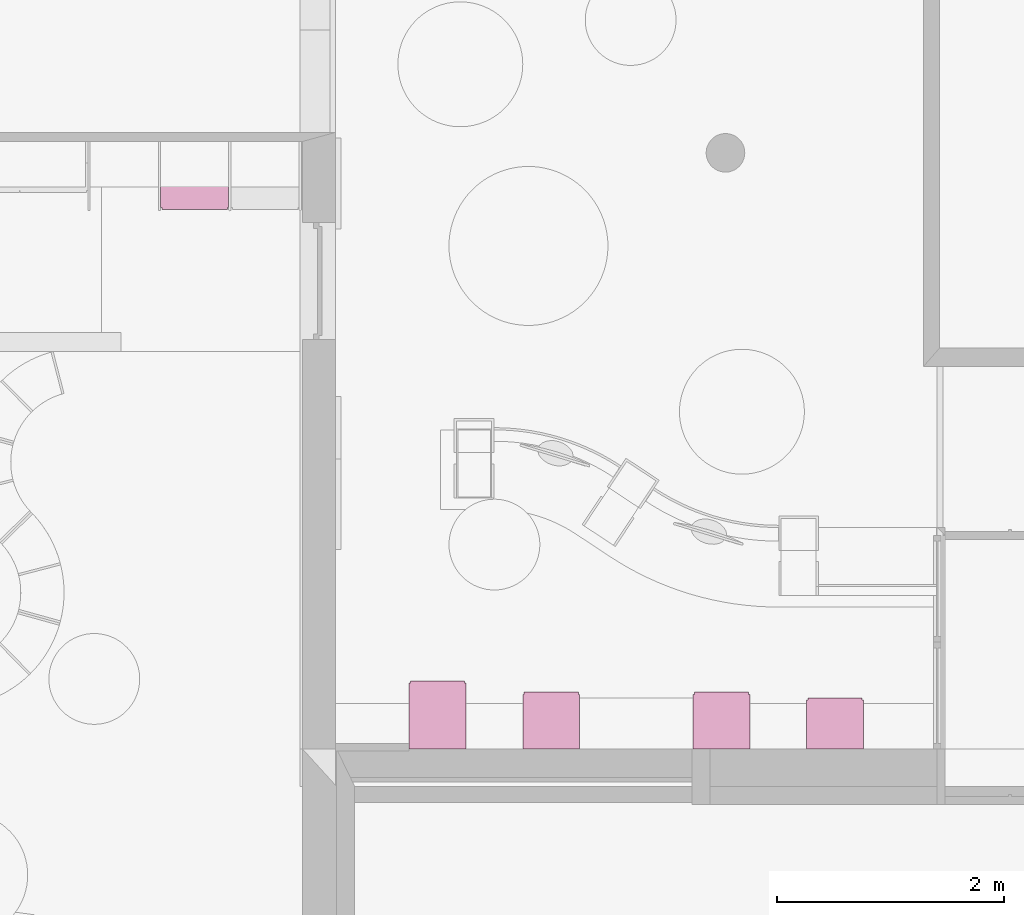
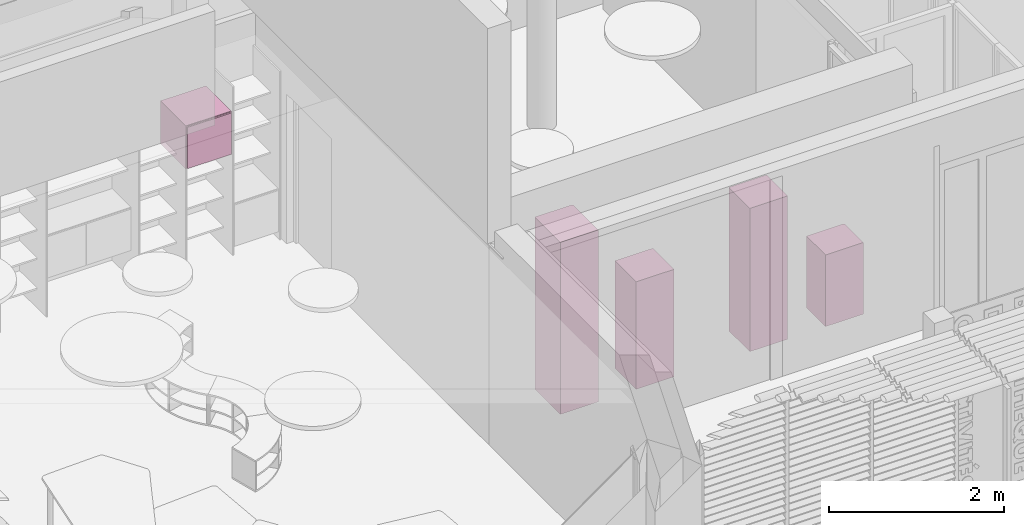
# One storey, part 50 of 64: 5 furnishings.
"""IFC2X3 building model written with IfcOpenShell, lengths in metres."""

from ifc_helpers import new_model, entity, si_unit, converted_unit, derived_unit, direction, frame, origin, place, context, subcontext, project, spatial, faceted_brep, source, transform, mapped, material, type_object, type_shapes, element, save


model = new_model("IFC2X3")

# Units and contexts
model_context = context("Model", 3, precision=1e-05, world=origin(), true_north=direction((6.123031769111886e-17, 1.0)))
body_context = subcontext(model_context, "Body", "Model", "MODEL_VIEW")
ifc_project = project(units=[si_unit("LENGTHUNIT", "METRE"), si_unit("AREAUNIT", "SQUARE_METRE"), si_unit("VOLUMEUNIT", "CUBIC_METRE"), converted_unit("PLANEANGLEUNIT", "DEGREE", entity("IfcRatioMeasure", 0.017453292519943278), si_unit("PLANEANGLEUNIT", "RADIAN"), dimensions=[0, 0, 0, 0, 0, 0, 0]), si_unit("MASSUNIT", "GRAM", prefix="KILO"), derived_unit("MASSDENSITYUNIT", [(si_unit("MASSUNIT", "GRAM", prefix="KILO"), 1), (si_unit("LENGTHUNIT", "METRE"), -3)]), derived_unit("MOMENTOFINERTIAUNIT", [(si_unit("LENGTHUNIT", "METRE"), 4)]), si_unit("TIMEUNIT", "SECOND"), si_unit("FREQUENCYUNIT", "HERTZ"), si_unit("THERMODYNAMICTEMPERATUREUNIT", "DEGREE_CELSIUS"), derived_unit("THERMALTRANSMITTANCEUNIT", [(si_unit("MASSUNIT", "GRAM", prefix="KILO"), 1), (si_unit("THERMODYNAMICTEMPERATUREUNIT", "KELVIN"), -1), (si_unit("TIMEUNIT", "SECOND"), -3)]), derived_unit("THERMALCONDUCTANCEUNIT", [(si_unit("MASSUNIT", "GRAM", prefix="KILO"), 1), (si_unit("LENGTHUNIT", "METRE"), 1), (si_unit("THERMODYNAMICTEMPERATUREUNIT", "KELVIN"), -1), (si_unit("TIMEUNIT", "SECOND"), -3)]), derived_unit("VOLUMETRICFLOWRATEUNIT", [(si_unit("LENGTHUNIT", "METRE"), 3), (si_unit("TIMEUNIT", "SECOND"), -1)]), derived_unit("MASSFLOWRATEUNIT", [(si_unit("MASSUNIT", "GRAM", prefix="KILO"), 1), (si_unit("TIMEUNIT", "SECOND"), -1)]), derived_unit("ROTATIONALFREQUENCYUNIT", [(si_unit("TIMEUNIT", "SECOND"), -1)]), si_unit("ELECTRICCURRENTUNIT", "AMPERE"), si_unit("ELECTRICVOLTAGEUNIT", "VOLT"), si_unit("POWERUNIT", "WATT"), si_unit("FORCEUNIT", "NEWTON", prefix="KILO"), si_unit("ILLUMINANCEUNIT", "LUX"), si_unit("LUMINOUSFLUXUNIT", "LUMEN"), si_unit("LUMINOUSINTENSITYUNIT", "CANDELA"), derived_unit("USERDEFINED", [(si_unit("MASSUNIT", "GRAM", prefix="KILO"), -1), (si_unit("LENGTHUNIT", "METRE"), -2), (si_unit("TIMEUNIT", "SECOND"), 3), (si_unit("LUMINOUSFLUXUNIT", "LUMEN"), 1)]), derived_unit("USERDEFINED", [(si_unit("MASSUNIT", "GRAM", prefix="KILO"), 1), (si_unit("LENGTHUNIT", "METRE"), 3), (si_unit("TIMEUNIT", "SECOND"), -3), (si_unit("ELECTRICCURRENTUNIT", "AMPERE"), -2)]), derived_unit("USERDEFINED", [(si_unit("LENGTHUNIT", "METRE"), 2), (si_unit("TIMEUNIT", "SECOND"), -2)]), derived_unit("SOUNDPOWERUNIT", [(si_unit("MASSUNIT", "GRAM", prefix="KILO"), 1), (si_unit("LENGTHUNIT", "METRE"), 2), (si_unit("TIMEUNIT", "SECOND"), -3)]), derived_unit("SOUNDPRESSUREUNIT", [(si_unit("MASSUNIT", "GRAM", prefix="KILO"), 1), (si_unit("LENGTHUNIT", "METRE"), -1), (si_unit("TIMEUNIT", "SECOND"), -2)]), derived_unit("LINEARVELOCITYUNIT", [(si_unit("LENGTHUNIT", "METRE"), 1), (si_unit("TIMEUNIT", "SECOND"), -1)]), si_unit("PRESSUREUNIT", "PASCAL"), derived_unit("USERDEFINED", [(si_unit("LENGTHUNIT", "METRE"), -2), (si_unit("MASSUNIT", "GRAM", prefix="KILO"), 1), (si_unit("TIMEUNIT", "SECOND"), -2)]), derived_unit("LINEARFORCEUNIT", [(si_unit("MASSUNIT", "GRAM", prefix="KILO"), 1), (si_unit("LENGTHUNIT", "METRE"), 1), (si_unit("TIMEUNIT", "SECOND"), -2), (si_unit("LENGTHUNIT", "METRE"), -1)]), derived_unit("PLANARFORCEUNIT", [(si_unit("MASSUNIT", "GRAM", prefix="KILO"), 1), (si_unit("LENGTHUNIT", "METRE"), 1), (si_unit("TIMEUNIT", "SECOND"), -2), (si_unit("LENGTHUNIT", "METRE"), -2)]), derived_unit("SPECIFICHEATCAPACITYUNIT", [(si_unit("LENGTHUNIT", "METRE"), 2), (si_unit("TIMEUNIT", "SECOND"), -2), (si_unit("THERMODYNAMICTEMPERATUREUNIT", "KELVIN"), -1)]), derived_unit("VAPORPERMEABILITYUNIT", [(si_unit("TIMEUNIT", "SECOND"), 1), (si_unit("LENGTHUNIT", "METRE"), -1)]), derived_unit("DYNAMICVISCOSITYUNIT", [(si_unit("MASSUNIT", "GRAM", prefix="KILO"), 1), (si_unit("LENGTHUNIT", "METRE"), -1), (si_unit("TIMEUNIT", "SECOND"), -1)]), derived_unit("THERMALEXPANSIONCOEFFICIENTUNIT", [(si_unit("THERMODYNAMICTEMPERATUREUNIT", "KELVIN"), -1)])], contexts=[model_context])

# Site, building, storey
site_placement = place(None, origin())
site = spatial("IfcSite", under=ifc_project, at=site_placement, Name="Default", CompositionType="ELEMENT")
building_placement = place(site_placement, origin())
building = spatial("IfcBuilding", under=site, at=building_placement, CompositionType="ELEMENT")
storey_placement = place(building_placement, origin())
storey = spatial("IfcBuildingStorey", under=building, at=storey_placement, Name="REZ-DE-CHAUSSÉE", CompositionType="ELEMENT", Elevation=0.0)

# Furnishings
ifc_material = material(Name="Peinture - Blanc titanium")
furnishing_element_type_1 = type_object("IfcFurnishingElementType", Name="Symb-0008", material=ifc_material)
shared_shape_1 = source(origin(), body_context, "Body", "Brep", [
    faceted_brep([(0.02000000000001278, 0.0, 0.020000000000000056), (0.02000000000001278, 0.0, 2.38), (0.02000000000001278, 0.019999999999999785, 2.38), (0.02000000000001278, 0.019999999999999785, 0.020000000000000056), (0.4800000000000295, 0.0, 0.020000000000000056), (0.4800000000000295, 0.0, 2.38), (0.4800000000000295, 0.019999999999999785, 2.38), (0.4800000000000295, 0.019999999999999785, 0.020000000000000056), (0.500000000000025, 0.5800000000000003, 0.0), (0.500000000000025, 0.0, 0.0), (0.4800000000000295, 0.0, 0.0), (0.4800000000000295, 0.5800000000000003, 0.0), (0.500000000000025, 0.5800000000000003, 2.3999999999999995), (0.500000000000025, 0.0, 2.3999999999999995), (0.4800000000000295, 0.0, 2.3999999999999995), (0.4800000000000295, 0.5800000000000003, 2.3999999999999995), (0.02000000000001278, 0.5800000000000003, 0.0), (0.02000000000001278, 0.0, 0.0), (0.0, 0.0, 0.0), (0.0, 0.5800000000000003, 0.0), (0.02000000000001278, 0.5800000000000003, 2.3999999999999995), (0.02000000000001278, 0.0, 2.3999999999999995), (0.0, 0.0, 2.3999999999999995), (0.0, 0.5800000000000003, 2.3999999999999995), (0.4800000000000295, 0.5800000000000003, 0.019999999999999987), (0.02000000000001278, 0.5800000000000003, 0.019999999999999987), (0.4800000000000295, 0.5800000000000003, 2.38), (0.02000000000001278, 0.5800000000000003, 2.38), (0.02000000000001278, 0.019999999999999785, 0.0), (0.4800000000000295, 0.019999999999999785, 0.0), (0.011500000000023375, 0.5800000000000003, 0.011499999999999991), (0.011500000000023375, 0.6000000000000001, 0.011499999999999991), (0.4885000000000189, 0.6000000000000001, 0.011499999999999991), (0.4885000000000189, 0.5800000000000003, 0.011499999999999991), (0.011500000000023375, 0.5800000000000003, 2.3885), (0.011500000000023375, 0.6000000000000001, 2.3885), (0.4885000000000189, 0.6000000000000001, 2.3885), (0.4885000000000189, 0.5800000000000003, 2.3885)], [[[0, 1, 2, 3]], [[4, 5, 1, 0]], [[1, 5, 6, 2]], [[3, 2, 6, 7]], [[0, 3, 7, 4]], [[7, 6, 5, 4]], [[8, 9, 10, 11]], [[8, 12, 13, 9]], [[9, 13, 14, 10]], [[10, 14, 15, 11]], [[11, 15, 12, 8]], [[15, 14, 13, 12]], [[16, 17, 18, 19]], [[16, 20, 21, 17]], [[17, 21, 22, 18]], [[18, 22, 23, 19]], [[19, 23, 20, 16]], [[23, 22, 21, 20]], [[11, 10, 17, 16]], [[11, 24, 4, 10]], [[10, 4, 0, 17]], [[17, 0, 25, 16]], [[16, 25, 24, 11]], [[25, 0, 4, 24]], [[26, 5, 1, 27]], [[26, 15, 14, 5]], [[5, 14, 21, 1]], [[1, 21, 20, 27]], [[27, 20, 15, 26]], [[20, 21, 14, 15]], [[17, 28, 29, 10]], [[18, 19, 16, 17]], [[10, 11, 8, 9]], [[30, 31, 32, 33]], [[34, 35, 31, 30]], [[31, 35, 36, 32]], [[33, 32, 36, 37]], [[30, 33, 37, 34]], [[37, 36, 35, 34]]]),
])
type_shapes(furnishing_element_type_1, [shared_shape_1])
furnishing_1_placement = place(storey_placement, frame((118.03075228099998, 8.07720948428, 0.1)))
element("IfcFurnishingElement", 1, at=furnishing_1_placement, inside=storey, type_object=furnishing_element_type_1, material=ifc_material, Name="Symb-0008:Symb-0008", ObjectType="Symb-0008:Symb-0008", context=body_context, shape_type="MappedRepresentation", body=[
    mapped(shared_shape_1, transform((0.0, 0.0, 0.0), scale=1.0)),
])
furnishing_element_type_2 = type_object("IfcFurnishingElementType", Name="Symb-0008", material=ifc_material)
shared_shape_2 = source(origin(), body_context, "Body", "Brep", [
    faceted_brep([(0.02000000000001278, 0.0, 0.019999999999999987), (0.02000000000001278, 0.0, 0.98), (0.02000000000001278, 0.019999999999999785, 0.98), (0.02000000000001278, 0.019999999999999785, 0.019999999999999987), (0.4800000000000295, 0.0, 0.019999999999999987), (0.4800000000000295, 0.0, 0.98), (0.4800000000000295, 0.019999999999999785, 0.98), (0.4800000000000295, 0.019999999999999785, 0.019999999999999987), (0.500000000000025, 0.4299999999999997, 0.0), (0.500000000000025, 0.0, 0.0), (0.4800000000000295, 0.0, 0.0), (0.4800000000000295, 0.4299999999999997, 0.0), (0.500000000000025, 0.4299999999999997, 1.0), (0.500000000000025, 0.0, 1.0), (0.4800000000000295, 0.0, 1.0), (0.4800000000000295, 0.4299999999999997, 1.0), (0.02000000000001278, 0.4299999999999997, 0.0), (0.02000000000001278, 0.0, 0.0), (0.0, 0.0, 0.0), (0.0, 0.4299999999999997, 0.0), (0.02000000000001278, 0.4299999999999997, 1.0), (0.02000000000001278, 0.0, 1.0), (0.0, 0.0, 1.0), (0.0, 0.4299999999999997, 1.0), (0.4800000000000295, 0.4299999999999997, 0.019999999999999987), (0.02000000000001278, 0.4299999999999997, 0.019999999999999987), (0.4800000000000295, 0.4299999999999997, 0.98), (0.02000000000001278, 0.4299999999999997, 0.98), (0.02000000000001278, 0.019999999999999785, 0.0), (0.4800000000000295, 0.019999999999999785, 0.0), (0.011500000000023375, 0.4299999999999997, 0.011499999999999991), (0.011500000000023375, 0.4499999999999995, 0.011499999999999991), (0.4885000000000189, 0.4499999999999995, 0.011499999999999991), (0.4885000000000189, 0.4299999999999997, 0.011499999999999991), (0.011500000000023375, 0.4299999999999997, 0.9884999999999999), (0.011500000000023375, 0.4499999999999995, 0.9884999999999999), (0.4885000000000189, 0.4499999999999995, 0.9884999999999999), (0.4885000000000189, 0.4299999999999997, 0.9884999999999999)], [[[0, 1, 2, 3]], [[4, 5, 1, 0]], [[1, 5, 6, 2]], [[3, 2, 6, 7]], [[0, 3, 7, 4]], [[7, 6, 5, 4]], [[8, 9, 10, 11]], [[8, 12, 13, 9]], [[9, 13, 14, 10]], [[10, 14, 15, 11]], [[11, 15, 12, 8]], [[15, 14, 13, 12]], [[16, 17, 18, 19]], [[16, 20, 21, 17]], [[17, 21, 22, 18]], [[18, 22, 23, 19]], [[19, 23, 20, 16]], [[23, 22, 21, 20]], [[11, 10, 17, 16]], [[11, 24, 4, 10]], [[10, 4, 0, 17]], [[17, 0, 25, 16]], [[16, 25, 24, 11]], [[25, 0, 4, 24]], [[26, 5, 1, 27]], [[26, 15, 14, 5]], [[5, 14, 21, 1]], [[1, 21, 20, 27]], [[27, 20, 15, 26]], [[20, 21, 14, 15]], [[17, 28, 29, 10]], [[18, 19, 16, 17]], [[10, 11, 8, 9]], [[30, 31, 32, 33]], [[34, 35, 31, 30]], [[31, 35, 36, 32]], [[33, 32, 36, 37]], [[30, 33, 37, 34]], [[37, 36, 35, 34]]]),
])
type_shapes(furnishing_element_type_2, [shared_shape_2])
furnishing_2_placement = place(storey_placement, frame((121.53075228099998, 8.07720948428, 0.1)))
element("IfcFurnishingElement", 2, at=furnishing_2_placement, inside=storey, type_object=furnishing_element_type_2, material=ifc_material, Name="Symb-0008 36225:Symb-0008 36225", ObjectType="Symb-0008 36225:Symb-0008 36225", context=body_context, shape_type="MappedRepresentation", body=[
    mapped(shared_shape_2, transform((0.0, 0.0, 0.0), scale=1.0)),
])
furnishing_element_type_3 = type_object("IfcFurnishingElementType", Name="Symb-0008", material=ifc_material)
shared_shape_3 = source(origin(), body_context, "Body", "Brep", [
    faceted_brep([(0.019999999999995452, 0.0, 0.020000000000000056), (0.019999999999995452, 0.0, 1.48), (0.019999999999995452, 0.019999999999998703, 1.48), (0.019999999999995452, 0.019999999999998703, 0.020000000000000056), (0.4799999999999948, 0.0, 0.020000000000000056), (0.4799999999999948, 0.0, 1.48), (0.4799999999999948, 0.019999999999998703, 1.48), (0.4799999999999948, 0.019999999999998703, 0.020000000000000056), (0.4999999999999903, 0.47999999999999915, 0.0), (0.4999999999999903, 0.0, 0.0), (0.4799999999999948, 0.0, 0.0), (0.4799999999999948, 0.47999999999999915, 0.0), (0.4999999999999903, 0.47999999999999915, 1.5000000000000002), (0.4999999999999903, 0.0, 1.5000000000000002), (0.4799999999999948, 0.0, 1.5000000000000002), (0.4799999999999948, 0.47999999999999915, 1.5000000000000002), (0.019999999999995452, 0.47999999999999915, 0.0), (0.019999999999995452, 0.0, 0.0), (0.0, 0.0, 0.0), (0.0, 0.47999999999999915, 0.0), (0.019999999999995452, 0.47999999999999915, 1.5000000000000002), (0.019999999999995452, 0.0, 1.5000000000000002), (0.0, 0.0, 1.5000000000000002), (0.0, 0.47999999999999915, 1.5000000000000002), (0.4799999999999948, 0.47999999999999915, 0.019999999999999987), (0.019999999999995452, 0.47999999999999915, 0.019999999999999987), (0.4799999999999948, 0.47999999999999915, 1.48), (0.019999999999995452, 0.47999999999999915, 1.48), (0.019999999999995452, 0.019999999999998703, 0.0), (0.4799999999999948, 0.019999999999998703, 0.0), (0.011499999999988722, 0.47999999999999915, 0.011499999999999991), (0.011499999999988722, 0.49999999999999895, 0.011499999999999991), (0.48850000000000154, 0.49999999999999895, 0.011499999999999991), (0.48850000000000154, 0.47999999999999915, 0.011499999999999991), (0.011499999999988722, 0.47999999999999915, 1.4885), (0.011499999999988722, 0.49999999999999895, 1.4885), (0.48850000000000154, 0.49999999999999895, 1.4885), (0.48850000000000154, 0.47999999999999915, 1.4885)], [[[0, 1, 2, 3]], [[4, 5, 1, 0]], [[1, 5, 6, 2]], [[3, 2, 6, 7]], [[0, 3, 7, 4]], [[7, 6, 5, 4]], [[8, 9, 10, 11]], [[8, 12, 13, 9]], [[9, 13, 14, 10]], [[10, 14, 15, 11]], [[11, 15, 12, 8]], [[15, 14, 13, 12]], [[16, 17, 18, 19]], [[16, 20, 21, 17]], [[17, 21, 22, 18]], [[18, 22, 23, 19]], [[19, 23, 20, 16]], [[23, 22, 21, 20]], [[11, 10, 17, 16]], [[11, 24, 4, 10]], [[10, 4, 0, 17]], [[17, 0, 25, 16]], [[16, 25, 24, 11]], [[25, 0, 4, 24]], [[26, 5, 1, 27]], [[26, 15, 14, 5]], [[5, 14, 21, 1]], [[1, 21, 20, 27]], [[27, 20, 15, 26]], [[20, 21, 14, 15]], [[17, 28, 29, 10]], [[18, 19, 16, 17]], [[10, 11, 8, 9]], [[30, 31, 32, 33]], [[34, 35, 31, 30]], [[31, 35, 36, 32]], [[33, 32, 36, 37]], [[30, 33, 37, 34]], [[37, 36, 35, 34]]]),
])
type_shapes(furnishing_element_type_3, [shared_shape_3])
furnishing_3_placement = place(storey_placement, frame((119.030752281, 8.07720948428, 0.1)))
element("IfcFurnishingElement", 3, at=furnishing_3_placement, inside=storey, type_object=furnishing_element_type_3, material=ifc_material, Name="Symb-0008 36642:Symb-0008 36642", ObjectType="Symb-0008 36642:Symb-0008 36642", context=body_context, shape_type="MappedRepresentation", body=[
    mapped(shared_shape_3, transform((0.0, 0.0, 0.0), scale=1.0)),
])
furnishing_element_type_4 = type_object("IfcFurnishingElementType", Name="Symb-0008", material=ifc_material)
shared_shape_4 = source(origin(), body_context, "Body", "Brep", [
    faceted_brep([(0.019999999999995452, 0.0, 0.020000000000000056), (0.019999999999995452, 0.0, 1.9799999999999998), (0.019999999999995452, 0.019999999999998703, 1.9799999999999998), (0.019999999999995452, 0.019999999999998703, 0.020000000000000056), (0.48000000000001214, 0.0, 0.020000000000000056), (0.48000000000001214, 0.0, 1.9799999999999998), (0.48000000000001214, 0.019999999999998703, 1.9799999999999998), (0.48000000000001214, 0.019999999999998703, 0.020000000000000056), (0.5000000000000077, 0.47999999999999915, 0.0), (0.5000000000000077, 0.0, 0.0), (0.48000000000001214, 0.0, 0.0), (0.48000000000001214, 0.47999999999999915, 0.0), (0.5000000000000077, 0.47999999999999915, 2.0), (0.5000000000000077, 0.0, 2.0), (0.48000000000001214, 0.0, 2.0), (0.48000000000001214, 0.47999999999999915, 2.0), (0.019999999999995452, 0.47999999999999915, 0.0), (0.019999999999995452, 0.0, 0.0), (0.0, 0.0, 0.0), (0.0, 0.47999999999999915, 0.0), (0.019999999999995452, 0.47999999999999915, 2.0), (0.019999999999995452, 0.0, 2.0), (0.0, 0.0, 2.0), (0.0, 0.47999999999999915, 2.0), (0.48000000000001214, 0.47999999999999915, 0.019999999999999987), (0.019999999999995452, 0.47999999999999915, 0.019999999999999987), (0.48000000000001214, 0.47999999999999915, 1.9799999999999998), (0.019999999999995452, 0.47999999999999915, 1.9799999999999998), (0.019999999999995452, 0.019999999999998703, 0.0), (0.48000000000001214, 0.019999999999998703, 0.0), (0.011500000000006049, 0.47999999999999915, 0.011499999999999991), (0.011500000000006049, 0.49999999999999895, 0.011499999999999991), (0.48850000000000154, 0.49999999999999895, 0.011499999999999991), (0.48850000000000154, 0.47999999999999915, 0.011499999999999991), (0.011500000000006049, 0.47999999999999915, 1.9884999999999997), (0.011500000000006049, 0.49999999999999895, 1.9884999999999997), (0.48850000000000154, 0.49999999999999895, 1.9884999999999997), (0.48850000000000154, 0.47999999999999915, 1.9884999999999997)], [[[0, 1, 2, 3]], [[4, 5, 1, 0]], [[1, 5, 6, 2]], [[3, 2, 6, 7]], [[0, 3, 7, 4]], [[7, 6, 5, 4]], [[8, 9, 10, 11]], [[8, 12, 13, 9]], [[9, 13, 14, 10]], [[10, 14, 15, 11]], [[11, 15, 12, 8]], [[15, 14, 13, 12]], [[16, 17, 18, 19]], [[16, 20, 21, 17]], [[17, 21, 22, 18]], [[18, 22, 23, 19]], [[19, 23, 20, 16]], [[23, 22, 21, 20]], [[11, 10, 17, 16]], [[11, 24, 4, 10]], [[10, 4, 0, 17]], [[17, 0, 25, 16]], [[16, 25, 24, 11]], [[25, 0, 4, 24]], [[26, 5, 1, 27]], [[26, 15, 14, 5]], [[5, 14, 21, 1]], [[1, 21, 20, 27]], [[27, 20, 15, 26]], [[20, 21, 14, 15]], [[17, 28, 29, 10]], [[18, 19, 16, 17]], [[10, 11, 8, 9]], [[30, 31, 32, 33]], [[34, 35, 31, 30]], [[31, 35, 36, 32]], [[33, 32, 36, 37]], [[30, 33, 37, 34]], [[37, 36, 35, 34]]]),
])
type_shapes(furnishing_element_type_4, [shared_shape_4])
furnishing_4_placement = place(storey_placement, frame((120.53075228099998, 8.07720948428, 0.1)))
element("IfcFurnishingElement", 4, at=furnishing_4_placement, inside=storey, type_object=furnishing_element_type_4, material=ifc_material, Name="Symb-0008 202223:Symb-0008 202223", ObjectType="Symb-0008 202223:Symb-0008 202223", context=body_context, shape_type="MappedRepresentation", body=[
    mapped(shared_shape_4, transform((0.0, 0.0, 0.0), scale=1.0)),
])
furnishing_element_type_5 = type_object("IfcFurnishingElementType", Name="Symb-0004", material=ifc_material)
shared_shape_5 = source(origin(), body_context, "Body", "Brep", [
    faceted_brep([(0.5799999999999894, 0.6000000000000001, 0.020000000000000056), (0.5799999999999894, 0.6000000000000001, 0.58), (0.5799999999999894, 0.5800000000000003, 0.58), (0.5799999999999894, 0.5800000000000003, 0.020000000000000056), (0.019999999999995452, 0.6000000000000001, 0.020000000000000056), (0.019999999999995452, 0.6000000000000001, 0.58), (0.019999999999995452, 0.5800000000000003, 0.58), (0.019999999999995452, 0.5800000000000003, 0.020000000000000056), (0.0, 0.019999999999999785, 0.0), (0.0, 0.6000000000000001, 0.0), (0.019999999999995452, 0.6000000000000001, 0.0), (0.019999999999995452, 0.019999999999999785, 0.0), (0.0, 0.019999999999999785, 0.6000000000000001), (0.0, 0.6000000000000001, 0.6000000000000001), (0.019999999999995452, 0.6000000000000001, 0.6000000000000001), (0.019999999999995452, 0.019999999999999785, 0.6000000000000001), (0.5799999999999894, 0.019999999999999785, 0.0), (0.5799999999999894, 0.6000000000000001, 0.0), (0.6000000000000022, 0.6000000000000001, 0.0), (0.6000000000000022, 0.019999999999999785, 0.0), (0.5799999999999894, 0.019999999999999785, 0.6000000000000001), (0.5799999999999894, 0.6000000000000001, 0.6000000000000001), (0.6000000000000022, 0.6000000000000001, 0.6000000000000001), (0.6000000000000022, 0.019999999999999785, 0.6000000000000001), (0.019999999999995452, 0.019999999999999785, 0.020000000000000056), (0.5799999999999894, 0.019999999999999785, 0.020000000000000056), (0.019999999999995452, 0.019999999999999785, 0.58), (0.5799999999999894, 0.019999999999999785, 0.58), (0.5799999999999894, 0.5800000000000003, 0.0), (0.019999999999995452, 0.5800000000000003, 0.0), (0.5884999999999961, 0.019999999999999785, 0.011500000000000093), (0.5884999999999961, 0.0, 0.011500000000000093), (0.011500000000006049, 0.0, 0.011500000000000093), (0.011500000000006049, 0.019999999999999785, 0.011500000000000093), (0.5884999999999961, 0.019999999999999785, 0.5884999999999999), (0.5884999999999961, 0.0, 0.5884999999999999), (0.011500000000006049, 0.0, 0.5884999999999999), (0.011500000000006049, 0.019999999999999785, 0.5884999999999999)], [[[0, 1, 2, 3]], [[4, 5, 1, 0]], [[1, 5, 6, 2]], [[3, 2, 6, 7]], [[0, 3, 7, 4]], [[7, 6, 5, 4]], [[8, 9, 10, 11]], [[8, 12, 13, 9]], [[9, 13, 14, 10]], [[10, 14, 15, 11]], [[11, 15, 12, 8]], [[15, 14, 13, 12]], [[16, 17, 18, 19]], [[16, 20, 21, 17]], [[17, 21, 22, 18]], [[18, 22, 23, 19]], [[19, 23, 20, 16]], [[23, 22, 21, 20]], [[11, 10, 17, 16]], [[11, 24, 4, 10]], [[10, 4, 0, 17]], [[17, 0, 25, 16]], [[16, 25, 24, 11]], [[25, 0, 4, 24]], [[26, 5, 1, 27]], [[26, 15, 14, 5]], [[5, 14, 21, 1]], [[1, 21, 20, 27]], [[27, 20, 15, 26]], [[20, 21, 14, 15]], [[17, 28, 29, 10]], [[18, 19, 16, 17]], [[10, 11, 8, 9]], [[30, 31, 32, 33]], [[34, 35, 31, 30]], [[31, 35, 36, 32]], [[33, 32, 36, 37]], [[30, 33, 37, 34]], [[37, 36, 35, 34]]]),
])
type_shapes(furnishing_element_type_5, [shared_shape_5])
furnishing_5_placement = place(storey_placement, frame((115.840752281, 12.8272094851, 1.4)))
element("IfcFurnishingElement", 5, at=furnishing_5_placement, inside=storey, type_object=furnishing_element_type_5, material=ifc_material, Name="Symb-0004 219298:Symb-0004 219298", ObjectType="Symb-0004 219298:Symb-0004 219298", context=body_context, shape_type="MappedRepresentation", body=[
    mapped(shared_shape_5, transform((0.0, 0.0, 0.0), scale=1.0)),
])

save(model, "model.ifc")
